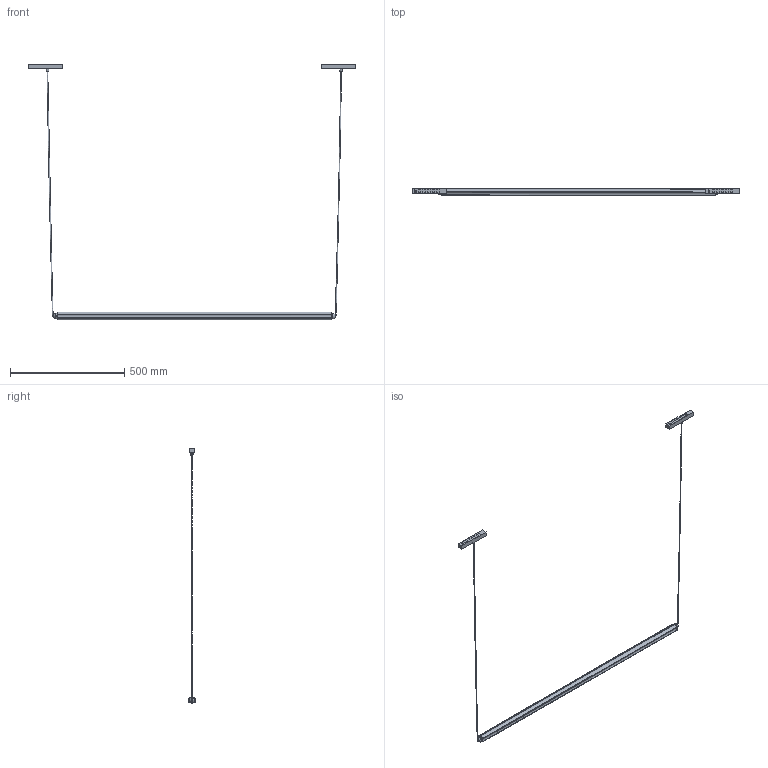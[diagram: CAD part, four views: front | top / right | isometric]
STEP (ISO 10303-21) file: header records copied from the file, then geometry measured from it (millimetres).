
FILE_DESCRIPTION(/* description */ (''),/* implementation_level */ '2;1');
FILE_NAME(/* name */ '64682141_3d',/* time_stamp */ '2026-05-12T12:11:58+02:00',/* author */ (''),/* organization */ (''),/* preprocessor_version */ 'ST-DEVELOPER v19.2',/* originating_system */ 'Rhino 8.30',/* authorisation */ '');
FILE_SCHEMA (('CONFIG_CONTROL_DESIGN'));
Length unit declared in the file: millimetre
Products named in the file (1): Document
Bounding box: 1432.88 x 30.92 x 1118.99 mm (x, y, z)
Volume: 446494.1 mm3; surface area: 243927.5 mm2
Topology: 5 solids, 9 shells, 201 faces, 541 edges, 350 vertices
Faces by surface type: plane 102, cylinder 70, bspline 29
Entity records: 11493 total; most frequent: CARTESIAN_POINT 7255, ORIENTED_EDGE 1046, EDGE_CURVE 537, DIRECTION 434, B_SPLINE_CURVE_WITH_KNOTS 361, VERTEX_POINT 350, AXIS2_PLACEMENT_3D 303, EDGE_LOOP 237
